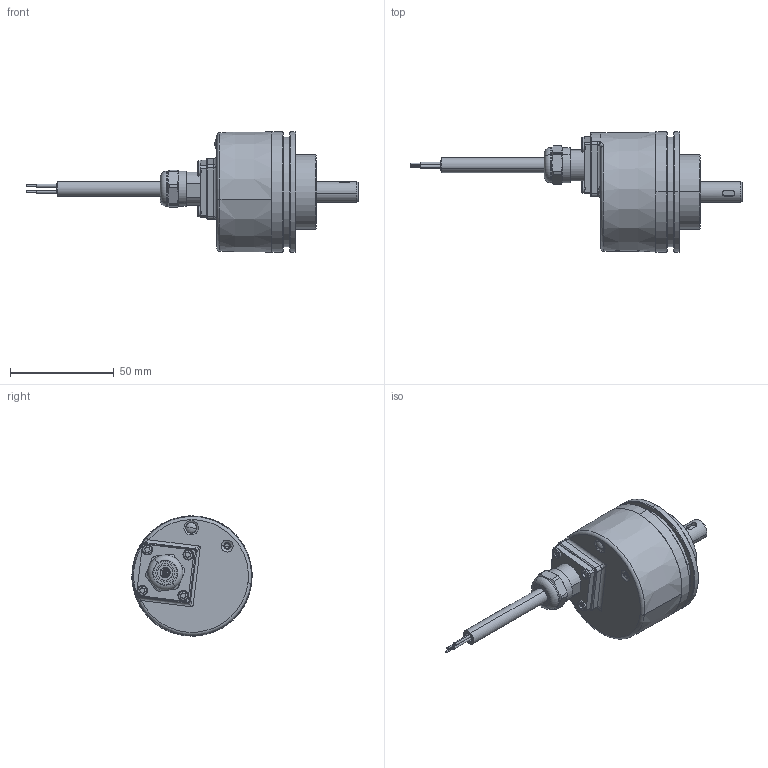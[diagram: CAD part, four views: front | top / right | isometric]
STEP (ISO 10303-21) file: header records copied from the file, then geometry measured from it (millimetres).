
FILE_DESCRIPTION (( 'STEP AP214' ), '1' );
FILE_NAME ('5853SIL.1AX1.XXXX.STEP', '2010-07-20T07:57:54', ( 'admin' ), ( 'Fritz Kübler GmbH' ), 'SwSTEP 2.0', 'SolidWorks 2009', '' );
FILE_SCHEMA (( 'AUTOMOTIVE_DESIGN' ));
Length unit declared in the file: millimetre
Products named in the file (1): 5853SIL.1AX1.XXXX
Bounding box: 160 x 58 x 58 mm (x, y, z)
Surface area: 22064 mm2 (no closed solid volume)
Topology: 0 solids, 14 shells, 273 faces, 681 edges, 432 vertices
Faces by surface type: plane 95, cylinder 82, cone 50, torus 28, sphere 12, bspline 6
Entity records: 12332 total; most frequent: CARTESIAN_POINT 2634, DIRECTION 1540, ORIENTED_EDGE 1260, EDGE_CURVE 679, AXIS2_PLACEMENT_3D 637, VERTEX_POINT 432, CIRCLE 369, EDGE_LOOP 310
